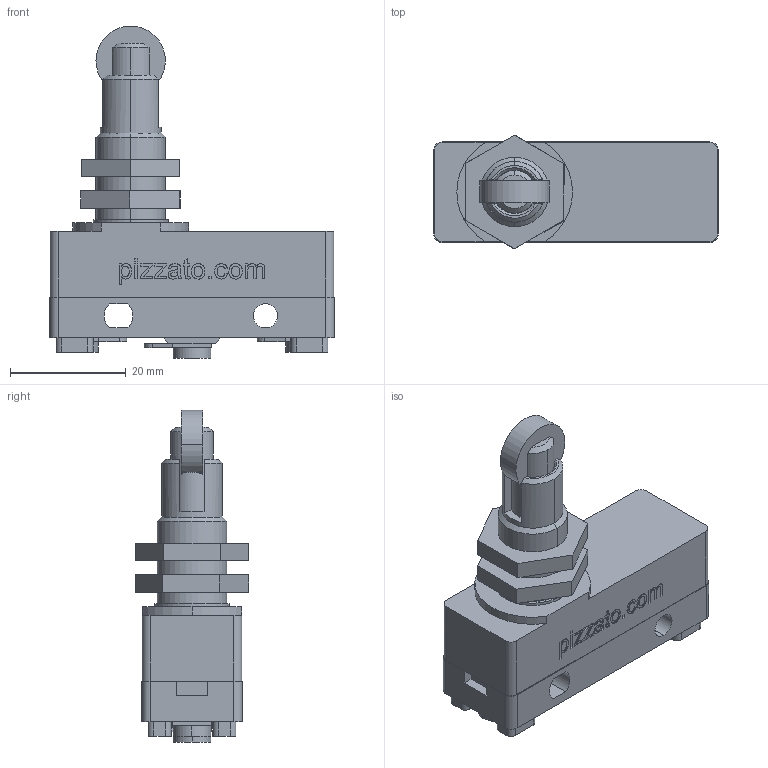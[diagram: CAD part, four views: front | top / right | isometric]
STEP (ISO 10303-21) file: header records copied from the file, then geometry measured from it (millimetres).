
FILE_DESCRIPTION (( 'STEP AP214' ), '1' );
FILE_NAME ('ZF_STEP_MS_15_.step', '2019-08-27T09:24:56', ( 'Pizzato Elettrica' ), ( 'Microsoft' ), 'SwSTEP 2.0', 'SolidWorks 2014', '' );
FILE_SCHEMA (( 'AUTOMOTIVE_DESIGN' ));
Length unit declared in the file: millimetre
Products named in the file (5): Pizzato_Pistoncino_MS15; Pizzato_Dado_35_35; Pizzato_supporto pistoncino_171_171; Pizzato_base 180_MS; ZF_STEP_MS_15_
Assembly tree (5 placements, depth 2):
  ZF_STEP_MS_15_
    Pizzato_base 180_MS
    Pizzato_supporto pistoncino_171_171
    Pizzato_Dado_35_35  x2
    Pizzato_Pistoncino_MS15
Bounding box: 49.2 x 19.63 x 57.4 mm (x, y, z)
Volume: 19553.9 mm3; surface area: 10264.6 mm2
Topology: 6 solids, 6 shells, 350 faces, 904 edges, 600 vertices
Faces by surface type: plane 195, cylinder 76, bspline 69, cone 10
Entity records: 14035 total; most frequent: CARTESIAN_POINT 5817, ORIENTED_EDGE 1760, DIRECTION 1440, EDGE_CURVE 880, VERTEX_POINT 584, LINE 562, VECTOR 562, AXIS2_PLACEMENT_3D 439
